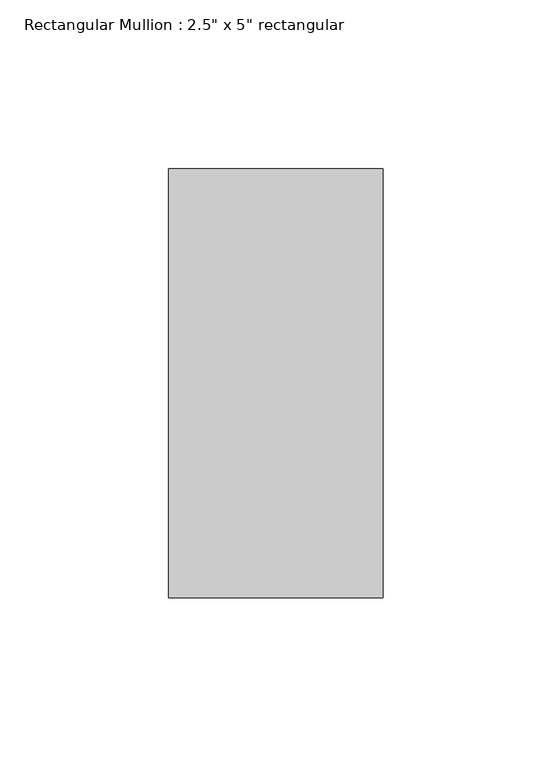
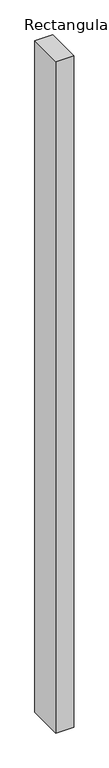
"""IFC4 building model written with IfcOpenShell, lengths in millimetres: member geometry."""

from ifc_helpers import new_model, si_unit, frame, origin, place, context, project, spatial, polyline, outline, extrude, source, transform, mapped, element, save


def member_b6766b59(model_context):
    return source(origin(), model_context, "Body", "SweptSolid", [
        extrude(outline(polyline([(0.0, 63.5), (0.0, -63.5), (-63.5, -63.5), (-63.5, 63.5), (0.0, 63.5)])), frame((0.0, 0.0, -2495.55), z_axis=(0.0, 0.0, 1.0), x_axis=(1.0, 0.0, 0.0)), (0.0, 0.0, 1.0), 2495.55),
    ])


if __name__ == "__main__":
    model = new_model("IFC4")
    model_context = context("Model", 3, world=origin())
    ifc_project = project(units=[si_unit("LENGTHUNIT", "METRE", prefix="MILLI")], contexts=[model_context])
    site = spatial("IfcSite", under=ifc_project)
    building = spatial("IfcBuilding", under=site)
    placement = place(None, origin())
    member_shape = member_b6766b59(model_context)
    element("IfcMember", 1, ObjectType="Rectangular Mullion : 2.5\" x 5\" rectangular", at=placement, inside=building, context=model_context, shape_type="MappedRepresentation", body=[
        mapped(member_shape, transform((0.0, 0.0, 0.0), x_axis=(1.0, 0.0, 0.0), y_axis=(0.0, 1.0, 0.0), z_axis=(0.0, 0.0, 1.0))),
    ])
    save(model, "model.ifc")
